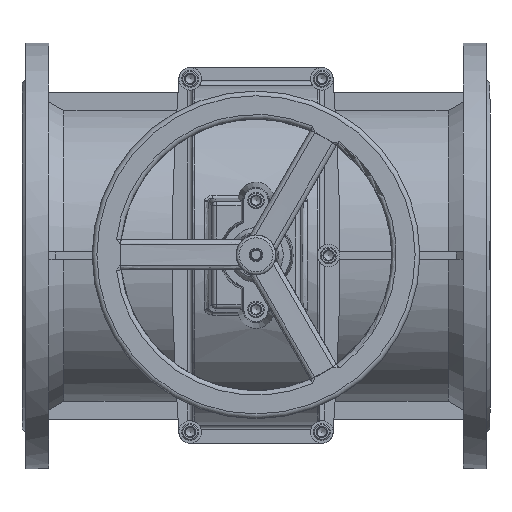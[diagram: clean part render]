
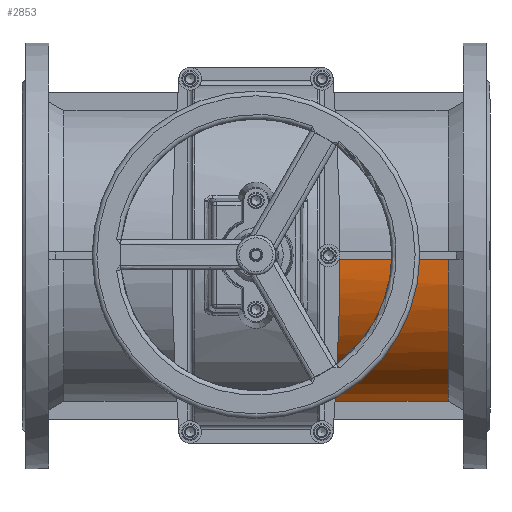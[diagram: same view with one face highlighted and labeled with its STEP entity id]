
A CAD part, top view. The second image highlights one B-rep face of the part: STEP entity #2853.
In plain terms, the highlighted cylindrical face has radius 158.167 mm (diameter 316.333 mm), a partial arc.
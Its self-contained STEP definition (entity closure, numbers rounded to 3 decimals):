
#2853=ADVANCED_FACE('',(#6942),#6944,.T.);
#6942=FACE_BOUND('',#6943,.T.);
#6943=EDGE_LOOP('',(#17098,#17099,#17100,#17101));
#6944=CYLINDRICAL_SURFACE('',#6945,158.167);
#6945=AXIS2_PLACEMENT_3D('',#6946,#6947,#6948);
#6946=CARTESIAN_POINT('',(221.5,0.,0.));
#6947=DIRECTION('',(-1.,0.,0.));
#6948=DIRECTION('',(0.,-1.,0.));
#17098=ORIENTED_EDGE('',*,*,#20682,.F.);
#17099=ORIENTED_EDGE('',*,*,#20683,.T.);
#17100=ORIENTED_EDGE('',*,*,#20684,.F.);
#17101=ORIENTED_EDGE('',*,*,#20218,.T.);
#20218=EDGE_CURVE('',#22589,#22587,#22590,.F.);
#20682=EDGE_CURVE('',#23306,#22587,#23308,.T.);
#20683=EDGE_CURVE('',#23306,#23309,#23310,.T.);
#20684=EDGE_CURVE('',#22589,#23309,#23311,.F.);
#22587=VERTEX_POINT('',#28509);
#22589=VERTEX_POINT('',#28513);
#22590=(BOUNDED_CURVE()B_SPLINE_CURVE(3,
(#28514,#28515,#28516,#28517),
.UNSPECIFIED.,.F.,.F.)B_SPLINE_CURVE_WITH_KNOTS((4,4),
(0.,1.),
.UNSPECIFIED.)CURVE()GEOMETRIC_REPRESENTATION_ITEM()RATIONAL_B_SPLINE_CURVE((1.,
0.853,0.853,1.))REPRESENTATION_ITEM(''));
#23306=VERTEX_POINT('',#30655);
#23308=LINE('',#30666,#30667);
#23309=VERTEX_POINT('',#30669);
#23310=CIRCLE('',#30670,158.167);
#23311=LINE('',#30674,#30675);
#28509=CARTESIAN_POINT('',(59.739,-155.296,30.));
#28513=CARTESIAN_POINT('',(66.453,-4.083,158.114));
#28514=CARTESIAN_POINT('',(59.739,-155.296,30.));
#28515=CARTESIAN_POINT('',(63.724,-140.605,106.047));
#28516=CARTESIAN_POINT('',(66.348,-81.51,156.114));
#28517=CARTESIAN_POINT('',(66.453,-4.083,158.114));
#30655=CARTESIAN_POINT('',(205.167,-155.296,30.));
#30666=CARTESIAN_POINT('',(205.167,-155.296,30.));
#30667=VECTOR('',#30668,1.);
#30668=DIRECTION('',(-1.,0.,0.));
#30669=CARTESIAN_POINT('',(205.167,-4.083,158.114));
#30670=AXIS2_PLACEMENT_3D('',#30671,#30672,#30673);
#30671=CARTESIAN_POINT('',(205.167,0.,0.));
#30672=DIRECTION('',(-1.,0.,0.));
#30673=DIRECTION('',(0.,-0.982,0.19));
#30674=CARTESIAN_POINT('',(205.167,-4.083,158.114));
#30675=VECTOR('',#30676,1.);
#30676=DIRECTION('',(-1.,0.,0.));
